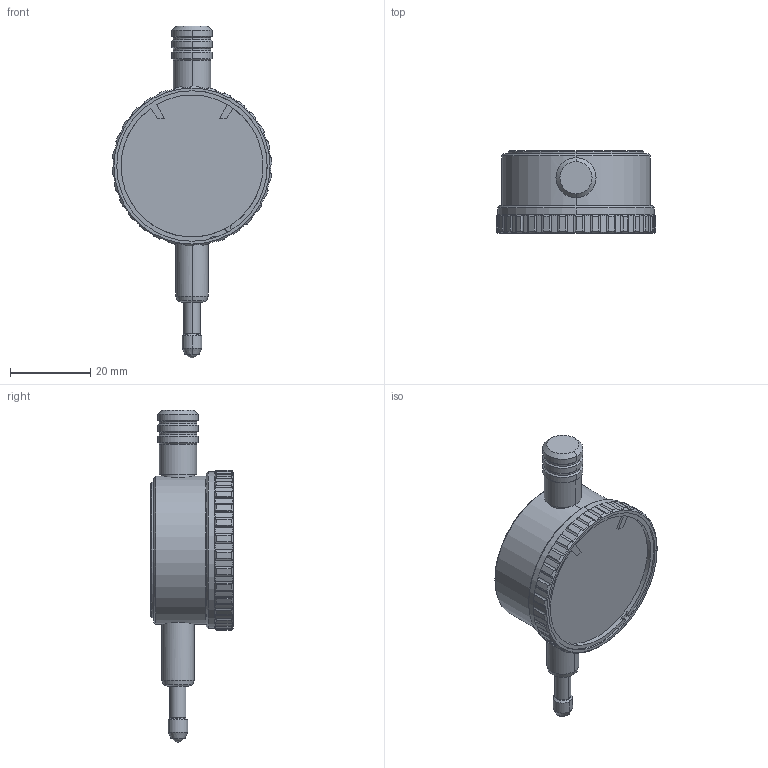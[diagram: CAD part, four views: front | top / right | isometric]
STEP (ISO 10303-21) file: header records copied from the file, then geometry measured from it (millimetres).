
FILE_DESCRIPTION(('STEP AP214'),'1');
FILE_NAME('KM500S.STP','2016-07-19T08:52:37',(' '),(' '),'Spatial InterOp 3D',' ',' ');
FILE_SCHEMA(('automotive_design'));
Length unit declared in the file: millimetre
Products named in the file (1): 1
Bounding box: 39.98 x 20.6 x 82.99 mm (x, y, z)
Volume: 23440.1 mm3; surface area: 6247.2 mm2
Topology: 1 solids, 5 shells, 289 faces, 752 edges, 486 vertices
Faces by surface type: cylinder 206, plane 48, cone 34, sphere 1
Entity records: 13147 total; most frequent: CARTESIAN_POINT 6274, ORIENTED_EDGE 1504, DIRECTION 1342, EDGE_CURVE 752, AXIS2_PLACEMENT_3D 526, VERTEX_POINT 486, EDGE_LOOP 308, LINE 290
